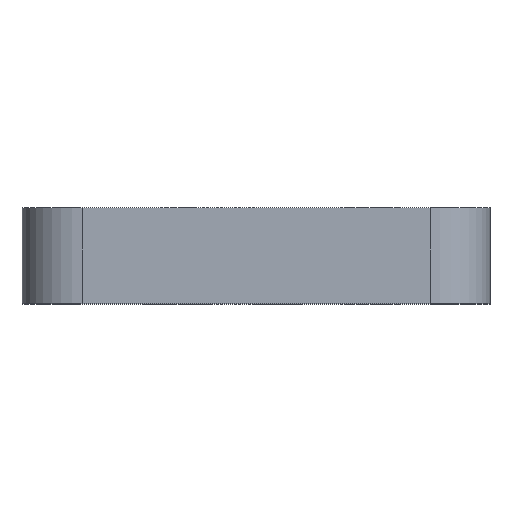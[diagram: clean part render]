
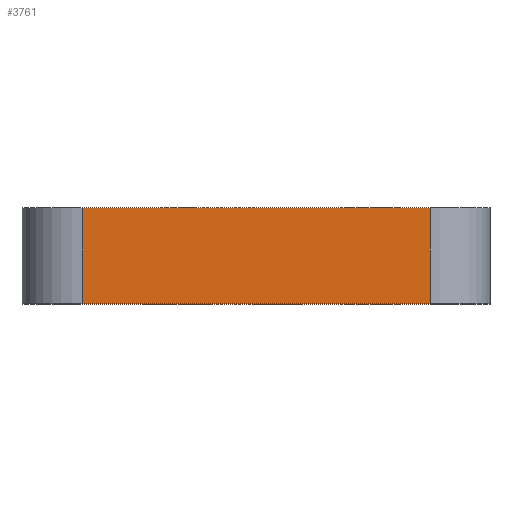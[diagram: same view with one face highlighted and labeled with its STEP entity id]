
A CAD part, top view. The second image highlights one B-rep face of the part: STEP entity #3761.
In plain terms, the highlighted planar face has unit normal (0, 0, 1).
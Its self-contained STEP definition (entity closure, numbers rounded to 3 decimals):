
#35=DIRECTION('',(1.,0.,0.));
#36=VECTOR('',#35,29.);
#37=CARTESIAN_POINT('',(6.,0.,21.));
#38=LINE('',#37,#36);
#788=DIRECTION('',(1.,0.,0.));
#789=VECTOR('',#788,29.);
#790=CARTESIAN_POINT('',(6.,8.,21.));
#791=LINE('',#790,#789);
#957=DIRECTION('',(0.,-1.,0.));
#958=VECTOR('',#957,8.);
#959=CARTESIAN_POINT('',(6.,8.,21.));
#960=LINE('',#959,#958);
#961=DIRECTION('',(0.,-1.,0.));
#962=VECTOR('',#961,8.);
#963=CARTESIAN_POINT('',(35.,8.,21.));
#964=LINE('',#963,#962);
#2229=CARTESIAN_POINT('',(6.,0.,21.));
#2231=VERTEX_POINT('',#2229);
#2235=CARTESIAN_POINT('',(6.,8.,21.));
#2236=VERTEX_POINT('',#2235);
#2238=CARTESIAN_POINT('',(35.,0.,21.));
#2240=VERTEX_POINT('',#2238);
#2241=CARTESIAN_POINT('',(35.,8.,21.));
#2242=VERTEX_POINT('',#2241);
#3749=CARTESIAN_POINT('',(1.,0.,21.));
#3750=DIRECTION('',(0.,0.,1.));
#3751=DIRECTION('',(1.,0.,0.));
#3752=AXIS2_PLACEMENT_3D('',#3749,#3750,#3751);
#3753=PLANE('',#3752);
#3755=ORIENTED_EDGE('',*,*,#3754,.F.);
#3756=ORIENTED_EDGE('',*,*,#3366,.T.);
#3757=ORIENTED_EDGE('',*,*,#3742,.T.);
#3758=ORIENTED_EDGE('',*,*,#2932,.F.);
#3759=EDGE_LOOP('',(#3755,#3756,#3757,#3758));
#3760=FACE_OUTER_BOUND('',#3759,.F.);
#3761=ADVANCED_FACE('',(#3760),#3753,.T.);
#2932=EDGE_CURVE('',#2231,#2240,#38,.T.);
#3366=EDGE_CURVE('',#2236,#2242,#791,.T.);
#3742=EDGE_CURVE('',#2242,#2240,#964,.T.);
#3754=EDGE_CURVE('',#2236,#2231,#960,.T.);
